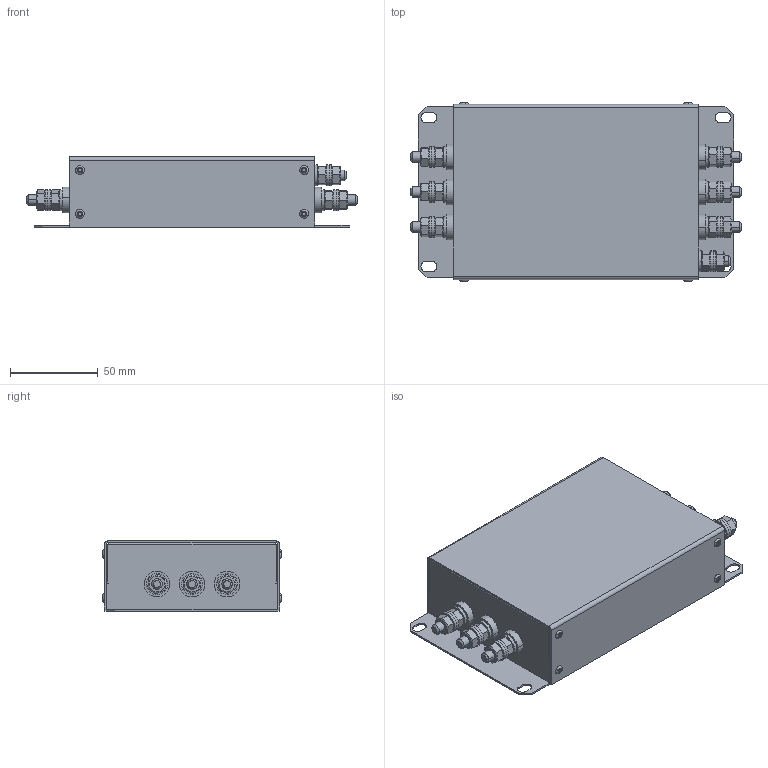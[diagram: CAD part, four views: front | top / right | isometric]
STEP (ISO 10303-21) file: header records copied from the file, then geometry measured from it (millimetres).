
FILE_DESCRIPTION (( 'STEP AP203' ), '1' );
FILE_NAME ('ÝÌÑ ôèëüòð - IEF-15_35-4.STEP', '2025-09-15T09:33:58', ( '' ), ( '' ), 'SwSTEP 2.0', 'SolidWorks 2021', '' );
FILE_SCHEMA (( 'CONFIG_CONTROL_DESIGN' ));
Length unit declared in the file: millimetre
Products named in the file (11): Êðûøêà ÒÏ2Ê; Êîðïóñ ÒÏ2Ê; Ñòåíêà ÒÏ2Ê_‹¥¢ ï; 羊屙赅 蚁2蔩忇牏狅; ﾄ濵 ﾒﾏ2ﾊ; Çàêëåïêà DIN 7337_2.4å6-2; Âòóëêà ïðîõîäíàÿ ÒÏ2Ê; Øïèëüêà DIN 976_Œ6å30; Ãàéêà DIN 934_Œ6; ÝÌÑ ôèëüòð - IEF-15_35-4; Øàéáà ïëîñêàÿ DIN 125 (A)_Œ6
Assembly tree (61 placements, depth 3):
  ÝÌÑ ôèëüòð - IEF-15_35-4
    Êîðïóñ ÒÏ2Ê
      ﾄ濵 ﾒﾏ2ﾊ
      Ñòåíêà ÒÏ2Ê_‹¥¢ ï
      羊屙赅 蚁2蔩忇牏狅
      Êðûøêà ÒÏ2Ê
      Çàêëåïêà DIN 7337_2.4å6-2  x8
    Øïèëüêà DIN 976_Œ6å30  x7
    Âòóëêà ïðîõîäíàÿ ÒÏ2Ê  x6
    Øàéáà ïëîñêàÿ DIN 125 (A)_Œ6  x21
    Ãàéêà DIN 934_Œ6  x14
Bounding box: 188.5 x 102 x 40 mm (x, y, z)
Volume: 74810.5 mm3; surface area: 136971.6 mm2
Topology: 60 solids, 60 shells, 878 faces, 1880 edges, 1144 vertices
Faces by surface type: plane 338, cylinder 260, cone 224, torus 48, bspline 8
Entity records: 10377 total; most frequent: CARTESIAN_POINT 1570, DIRECTION 1394, ORIENTED_EDGE 1208, EDGE_CURVE 604, AXIS2_PLACEMENT_3D 500, VECTOR 394, LINE 394, VERTEX_POINT 372
